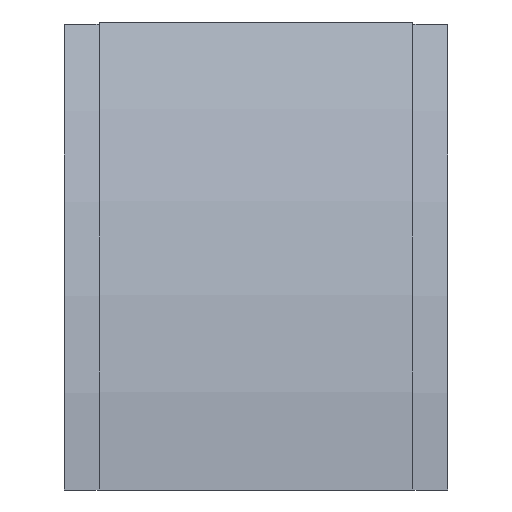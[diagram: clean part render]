
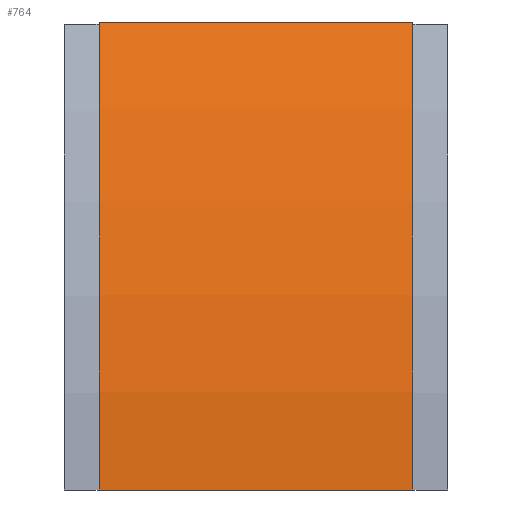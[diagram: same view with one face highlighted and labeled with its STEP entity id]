
A CAD part, front view. The second image highlights one B-rep face of the part: STEP entity #764.
In plain terms, the highlighted cylindrical face has radius 568 mm (diameter 1136 mm), a partial arc.
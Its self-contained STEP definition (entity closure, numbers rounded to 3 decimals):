
#244 = VERTEX_POINT ( 'NONE', #561 ) ;
#246 = VERTEX_POINT ( 'NONE', #532 ) ;
#251 = VERTEX_POINT ( 'NONE', #570 ) ;
#253 = VERTEX_POINT ( 'NONE', #567 ) ;
#297 = CIRCLE ( 'NONE', #829, 568. ) ;
#299 = LINE ( 'NONE', #667, #306 ) ;
#302 = CIRCLE ( 'NONE', #830, 568. ) ;
#305 = LINE ( 'NONE', #715, #308 ) ;
#306 = VECTOR ( 'NONE', #576, 1000. ) ;
#308 = VECTOR ( 'NONE', #741, 1000. ) ;
#382 = FACE_OUTER_BOUND ( 'NONE', #453, .T. ) ;
#386 = CYLINDRICAL_SURFACE ( 'NONE', #984, 568. ) ;
#404 = EDGE_CURVE ( 'NONE', #246, #253, #297, .T. ) ;
#407 = EDGE_CURVE ( 'NONE', #244, #251, #302, .T. ) ;
#408 = EDGE_CURVE ( 'NONE', #246, #244, #299, .T. ) ;
#409 = EDGE_CURVE ( 'NONE', #253, #251, #305, .T. ) ;
#453 = EDGE_LOOP ( 'NONE', ( #883, #905, #903, #884 ) ) ;
#506 = CARTESIAN_POINT ( 'NONE',  ( 0., 500., 0. ) ) ;
#509 = DIRECTION ( 'NONE',  ( 0., 0., -1. ) ) ;
#511 = DIRECTION ( 'NONE',  ( 1., 0., 0. ) ) ;
#532 = CARTESIAN_POINT ( 'NONE',  ( -95.25, 8.098, 284. ) ) ;
#553 = DIRECTION ( 'NONE',  ( 1., 0., 0. ) ) ;
#554 = CARTESIAN_POINT ( 'NONE',  ( -95.25, 500., 0. ) ) ;
#561 = CARTESIAN_POINT ( 'NONE',  ( 95.25, 8.098, 284. ) ) ;
#567 = CARTESIAN_POINT ( 'NONE',  ( -95.25, -68., 0. ) ) ;
#570 = CARTESIAN_POINT ( 'NONE',  ( 95.25, -68., 0. ) ) ;
#576 = DIRECTION ( 'NONE',  ( 1., 0., 0. ) ) ;
#666 = CARTESIAN_POINT ( 'NONE',  ( 95.25, 500., 0. ) ) ;
#667 = CARTESIAN_POINT ( 'NONE',  ( -95.25, 8.098, 284. ) ) ;
#696 = DIRECTION ( 'NONE',  ( 0., 0., -1. ) ) ;
#715 = CARTESIAN_POINT ( 'NONE',  ( -95.25, -68., 0. ) ) ;
#741 = DIRECTION ( 'NONE',  ( 1., 0., 0. ) ) ;
#749 = DIRECTION ( 'NONE',  ( 0., 0., -1. ) ) ;
#750 = DIRECTION ( 'NONE',  ( 1., 0., 0. ) ) ;
#764 = ADVANCED_FACE ( 'NONE', ( #382 ), #386, .T. ) ;
#829 = AXIS2_PLACEMENT_3D ( 'NONE', #554, #553, #696 ) ;
#830 = AXIS2_PLACEMENT_3D ( 'NONE', #666, #750, #749 ) ;
#883 = ORIENTED_EDGE ( 'NONE', *, *, #407, .F. ) ;
#884 = ORIENTED_EDGE ( 'NONE', *, *, #409, .T. ) ;
#903 = ORIENTED_EDGE ( 'NONE', *, *, #404, .T. ) ;
#905 = ORIENTED_EDGE ( 'NONE', *, *, #408, .F. ) ;
#984 = AXIS2_PLACEMENT_3D ( 'NONE', #506, #511, #509 ) ;
